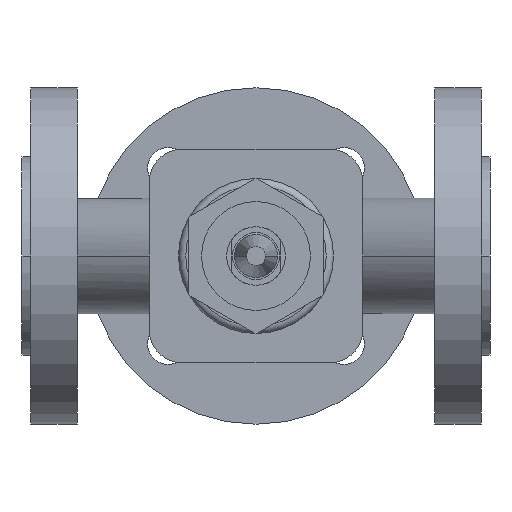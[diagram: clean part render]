
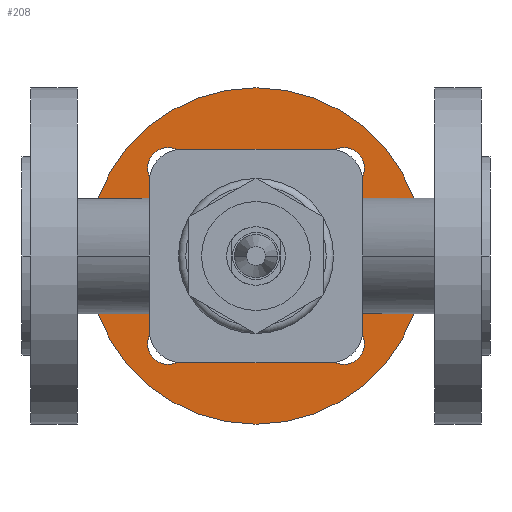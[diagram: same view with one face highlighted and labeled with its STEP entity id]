
A CAD part, front view. The second image highlights one B-rep face of the part: STEP entity #208.
In plain terms, the highlighted planar face has unit normal (0, -1, 0).
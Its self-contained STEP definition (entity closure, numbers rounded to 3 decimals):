
#208 = ADVANCED_FACE( '', ( #519, #520, #521, #522, #523, #524 ), #525, .T. );
#519 = FACE_OUTER_BOUND( '', #841, .T. );
#520 = FACE_BOUND( '', #842, .T. );
#521 = FACE_BOUND( '', #843, .T. );
#522 = FACE_BOUND( '', #844, .T. );
#523 = FACE_BOUND( '', #845, .T. );
#524 = FACE_BOUND( '', #846, .T. );
#525 = PLANE( '', #847 );
#841 = EDGE_LOOP( '', ( #1892, #1893 ) );
#842 = EDGE_LOOP( '', ( #1894, #1895 ) );
#843 = EDGE_LOOP( '', ( #1896, #1897 ) );
#844 = EDGE_LOOP( '', ( #1898, #1899 ) );
#845 = EDGE_LOOP( '', ( #1900, #1901 ) );
#846 = EDGE_LOOP( '', ( #1902, #1903 ) );
#847 = AXIS2_PLACEMENT_3D( '', #1904, #1905, #1906 );
#1892 = ORIENTED_EDGE( '', *, *, #2285, .F. );
#1893 = ORIENTED_EDGE( '', *, *, #1969, .F. );
#1894 = ORIENTED_EDGE( '', *, *, #2284, .F. );
#1895 = ORIENTED_EDGE( '', *, *, #1973, .F. );
#1896 = ORIENTED_EDGE( '', *, *, #2283, .F. );
#1897 = ORIENTED_EDGE( '', *, *, #1977, .F. );
#1898 = ORIENTED_EDGE( '', *, *, #2282, .F. );
#1899 = ORIENTED_EDGE( '', *, *, #1981, .F. );
#1900 = ORIENTED_EDGE( '', *, *, #2281, .F. );
#1901 = ORIENTED_EDGE( '', *, *, #1985, .F. );
#1902 = ORIENTED_EDGE( '', *, *, #1959, .F. );
#1903 = ORIENTED_EDGE( '', *, *, #2287, .F. );
#1904 = CARTESIAN_POINT( '', ( 49.75, 56.14, 0. ) );
#1905 = DIRECTION( '', ( 0., -1., 0. ) );
#1906 = DIRECTION( '', ( -1., 0., 0. ) );
#1959 = EDGE_CURVE( '', #2305, #2308, #2309, .T. );
#1969 = EDGE_CURVE( '', #2325, #2321, #2327, .T. );
#1973 = EDGE_CURVE( '', #2333, #2329, #2335, .T. );
#1977 = EDGE_CURVE( '', #2341, #2337, #2343, .T. );
#1981 = EDGE_CURVE( '', #2349, #2345, #2351, .T. );
#1985 = EDGE_CURVE( '', #2357, #2353, #2359, .T. );
#2281 = EDGE_CURVE( '', #2353, #2357, #2845, .T. );
#2282 = EDGE_CURVE( '', #2345, #2349, #2846, .T. );
#2283 = EDGE_CURVE( '', #2337, #2341, #2847, .T. );
#2284 = EDGE_CURVE( '', #2329, #2333, #2848, .T. );
#2285 = EDGE_CURVE( '', #2321, #2325, #2849, .T. );
#2287 = EDGE_CURVE( '', #2308, #2305, #2851, .T. );
#2305 = VERTEX_POINT( '', #2927 );
#2308 = VERTEX_POINT( '', #2931 );
#2309 = CIRCLE( '', #2932, 26.5 );
#2321 = VERTEX_POINT( '', #2947 );
#2325 = VERTEX_POINT( '', #2952 );
#2327 = CIRCLE( '', #2955, 57.5 );
#2329 = VERTEX_POINT( '', #2957 );
#2333 = VERTEX_POINT( '', #2962 );
#2335 = CIRCLE( '', #2965, 7. );
#2337 = VERTEX_POINT( '', #2967 );
#2341 = VERTEX_POINT( '', #2972 );
#2343 = CIRCLE( '', #2975, 7. );
#2345 = VERTEX_POINT( '', #2977 );
#2349 = VERTEX_POINT( '', #2982 );
#2351 = CIRCLE( '', #2985, 7. );
#2353 = VERTEX_POINT( '', #2987 );
#2357 = VERTEX_POINT( '', #2992 );
#2359 = CIRCLE( '', #2995, 7. );
#2845 = CIRCLE( '', #3835, 7. );
#2846 = CIRCLE( '', #3836, 7. );
#2847 = CIRCLE( '', #3837, 7. );
#2848 = CIRCLE( '', #3838, 7. );
#2849 = CIRCLE( '', #3839, 57.5 );
#2851 = CIRCLE( '', #3841, 26.5 );
#2927 = CARTESIAN_POINT( '', ( 53.5, 56.14, 0. ) );
#2931 = CARTESIAN_POINT( '', ( 106.5, 56.14, 0. ) );
#2932 = AXIS2_PLACEMENT_3D( '', #3862, #3863, #3864 );
#2947 = CARTESIAN_POINT( '', ( 137.5, 56.14, 0. ) );
#2952 = CARTESIAN_POINT( '', ( 22.5, 56.14, 0. ) );
#2955 = AXIS2_PLACEMENT_3D( '', #3882, #3883, #3884 );
#2957 = CARTESIAN_POINT( '', ( 117.052, 56.14, -30.052 ) );
#2962 = CARTESIAN_POINT( '', ( 103.052, 56.14, -30.052 ) );
#2965 = AXIS2_PLACEMENT_3D( '', #3890, #3891, #3892 );
#2967 = CARTESIAN_POINT( '', ( 117.052, 56.14, 30.052 ) );
#2972 = CARTESIAN_POINT( '', ( 103.052, 56.14, 30.052 ) );
#2975 = AXIS2_PLACEMENT_3D( '', #3898, #3899, #3900 );
#2977 = CARTESIAN_POINT( '', ( 56.948, 56.14, -30.052 ) );
#2982 = CARTESIAN_POINT( '', ( 42.948, 56.14, -30.052 ) );
#2985 = AXIS2_PLACEMENT_3D( '', #3906, #3907, #3908 );
#2987 = CARTESIAN_POINT( '', ( 56.948, 56.14, 30.052 ) );
#2992 = CARTESIAN_POINT( '', ( 42.948, 56.14, 30.052 ) );
#2995 = AXIS2_PLACEMENT_3D( '', #3914, #3915, #3916 );
#3835 = AXIS2_PLACEMENT_3D( '', #4477, #4478, #4479 );
#3836 = AXIS2_PLACEMENT_3D( '', #4480, #4481, #4482 );
#3837 = AXIS2_PLACEMENT_3D( '', #4483, #4484, #4485 );
#3838 = AXIS2_PLACEMENT_3D( '', #4486, #4487, #4488 );
#3839 = AXIS2_PLACEMENT_3D( '', #4489, #4490, #4491 );
#3841 = AXIS2_PLACEMENT_3D( '', #4495, #4496, #4497 );
#3862 = CARTESIAN_POINT( '', ( 80., 56.14, 0. ) );
#3863 = DIRECTION( '', ( 0., -1., 0. ) );
#3864 = DIRECTION( '', ( -1., 0., 0. ) );
#3882 = CARTESIAN_POINT( '', ( 80., 56.14, 0. ) );
#3883 = DIRECTION( '', ( 0., 1., 0. ) );
#3884 = DIRECTION( '', ( 1., 0., 0. ) );
#3890 = CARTESIAN_POINT( '', ( 110.052, 56.14, -30.052 ) );
#3891 = DIRECTION( '', ( 0., -1., 0. ) );
#3892 = DIRECTION( '', ( 1., 0., 0. ) );
#3898 = CARTESIAN_POINT( '', ( 110.052, 56.14, 30.052 ) );
#3899 = DIRECTION( '', ( 0., -1., 0. ) );
#3900 = DIRECTION( '', ( 1., 0., 0. ) );
#3906 = CARTESIAN_POINT( '', ( 49.948, 56.14, -30.052 ) );
#3907 = DIRECTION( '', ( 0., -1., 0. ) );
#3908 = DIRECTION( '', ( 1., 0., 0. ) );
#3914 = CARTESIAN_POINT( '', ( 49.948, 56.14, 30.052 ) );
#3915 = DIRECTION( '', ( 0., -1., 0. ) );
#3916 = DIRECTION( '', ( 1., 0., 0. ) );
#4477 = CARTESIAN_POINT( '', ( 49.948, 56.14, 30.052 ) );
#4478 = DIRECTION( '', ( 0., -1., 0. ) );
#4479 = DIRECTION( '', ( 1., 0., 0. ) );
#4480 = CARTESIAN_POINT( '', ( 49.948, 56.14, -30.052 ) );
#4481 = DIRECTION( '', ( 0., -1., 0. ) );
#4482 = DIRECTION( '', ( 1., 0., 0. ) );
#4483 = CARTESIAN_POINT( '', ( 110.052, 56.14, 30.052 ) );
#4484 = DIRECTION( '', ( 0., -1., 0. ) );
#4485 = DIRECTION( '', ( 1., 0., 0. ) );
#4486 = CARTESIAN_POINT( '', ( 110.052, 56.14, -30.052 ) );
#4487 = DIRECTION( '', ( 0., -1., 0. ) );
#4488 = DIRECTION( '', ( 1., 0., 0. ) );
#4489 = CARTESIAN_POINT( '', ( 80., 56.14, 0. ) );
#4490 = DIRECTION( '', ( 0., 1., 0. ) );
#4491 = DIRECTION( '', ( 1., 0., 0. ) );
#4495 = CARTESIAN_POINT( '', ( 80., 56.14, 0. ) );
#4496 = DIRECTION( '', ( 0., -1., 0. ) );
#4497 = DIRECTION( '', ( -1., 0., 0. ) );
